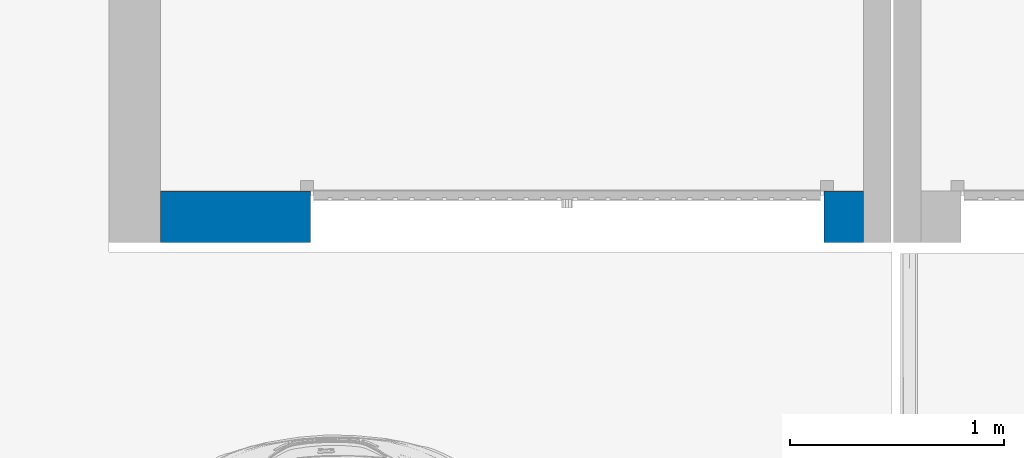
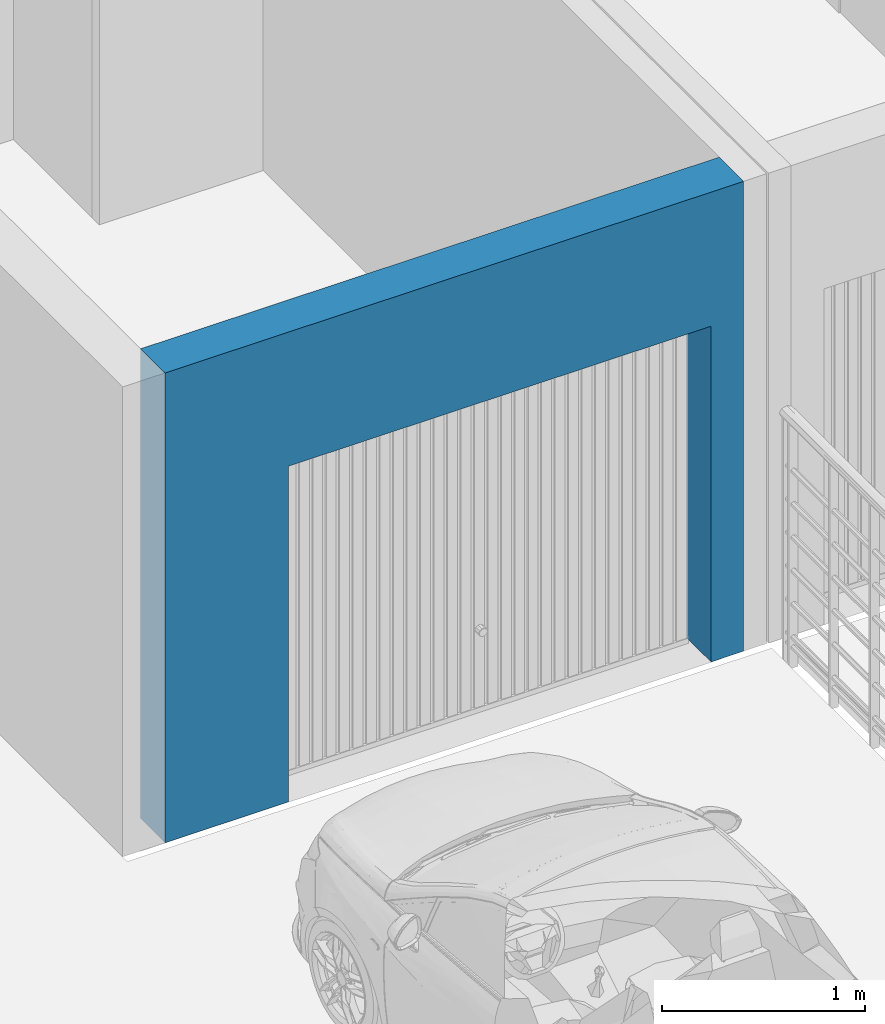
# One storey, part 2 of 33: 1 wall, 1 opening.
"""IFC2X3 building model written with IfcOpenShell, lengths in metres."""

from ifc_helpers import new_model, entity, si_unit, converted_unit, derived_unit, direction, frame, frame_2d, origin, place, context, subcontext, project, spatial, rectangle, extrude, material, layer, layer_set, layer_usage, type_object, element, save


model = new_model("IFC2X3")

# Units and contexts
model_context = context("Model", 3, precision=1e-05, world=origin(), true_north=direction((6.12303176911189e-17, 1.0)))
context_of_model = context(None, 3, precision=1e-05, world=origin(), true_north=direction((6.12303176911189e-17, 1.0)))
body_context = subcontext(model_context, "Body", "Model", "MODEL_VIEW")
ifc_project = project(units=[si_unit("LENGTHUNIT", "METRE"), si_unit("AREAUNIT", "SQUARE_METRE"), si_unit("VOLUMEUNIT", "CUBIC_METRE"), converted_unit("PLANEANGLEUNIT", "DEGREE", entity("IfcRatioMeasure", 0.0174532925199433), si_unit("PLANEANGLEUNIT", "RADIAN"), dimensions=[0, 0, 0, 0, 0, 0, 0]), si_unit("MASSUNIT", "GRAM", prefix="KILO"), si_unit("TIMEUNIT", "SECOND"), si_unit("FREQUENCYUNIT", "HERTZ"), si_unit("THERMODYNAMICTEMPERATUREUNIT", "DEGREE_CELSIUS"), derived_unit("THERMALTRANSMITTANCEUNIT", [(si_unit("MASSUNIT", "GRAM", prefix="KILO"), 1), (si_unit("THERMODYNAMICTEMPERATUREUNIT", "KELVIN"), -1), (si_unit("TIMEUNIT", "SECOND"), -3)]), derived_unit("VOLUMETRICFLOWRATEUNIT", [(si_unit("LENGTHUNIT", "METRE"), 3), (si_unit("TIMEUNIT", "SECOND"), -1)]), si_unit("ELECTRICCURRENTUNIT", "AMPERE"), si_unit("ELECTRICVOLTAGEUNIT", "VOLT"), si_unit("POWERUNIT", "WATT"), si_unit("FORCEUNIT", "NEWTON", prefix="KILO"), si_unit("ILLUMINANCEUNIT", "LUX"), si_unit("LUMINOUSFLUXUNIT", "LUMEN"), si_unit("LUMINOUSINTENSITYUNIT", "CANDELA"), si_unit("PRESSUREUNIT", "PASCAL")], contexts=[model_context, context_of_model])

# Site, building, storey
site_placement = place(None, origin())
site = spatial("IfcSite", under=ifc_project, at=site_placement, Name="Surface", CompositionType="ELEMENT")
building_placement = place(site_placement, origin())
building = spatial("IfcBuilding", under=site, at=building_placement, CompositionType="ELEMENT")
storey_placement = place(building_placement, origin())
storey = spatial("IfcBuildingStorey", under=building, at=storey_placement, Name="Plan des fondations  Maisons 1 et 2", CompositionType="ELEMENT", Elevation=0.0)

# Wall, opening
ifc_material_1 = material(Name="Enduit  gris")
ifc_layer_1 = layer(ifc_material_1, 0.02)
ifc_material_2 = material(Name="Parpaing")
ifc_layer_2 = layer(ifc_material_2, 0.2)
ifc_layer_3 = layer(ifc_material_1, 0.02)
ifc_layer_set = layer_set([ifc_layer_1, ifc_layer_2, ifc_layer_3], Name="Mur de base:Ext. Parpaing 2 + 20 + 2 gris")
ifc_layer_usage = layer_usage(ifc_layer_set, "AXIS2", "POSITIVE", -0.12)
wall_type = type_object("IfcWallType", Name="Mur de base:Ext. Parpaing 2 + 20 + 2 gris", PredefinedType="STANDARD", material=ifc_layer_set)
wall_placement = place(storey_placement, frame((68.6996263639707, 77.0077566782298, 0.0), z_axis=(0.0, 0.0, 1.0), x_axis=(-1.0, 0.0, 0.0)))
wall = element("IfcWallStandardCase", 1, at=wall_placement, inside=storey, type_object=wall_type, material=ifc_layer_usage, Name="Mur de base:Ext. Parpaing 2 + 20 + 2 gris", ObjectType="Mur de base:Ext. Parpaing 2 + 20 + 2 gris", context=body_context, shape_type="SweptSolid", body=[
    extrude(rectangle(XDim=3.28499999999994, YDim=0.239999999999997, at=frame_2d((1.64249999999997, -2.14411821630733e-15), x_axis=(-1.0, 0.0))), origin(), (0.0, 0.0, 1.0), 2.82),
])
opening_placement = place(wall_placement, frame((68.6996263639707, 77.0077566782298, 0.0), z_axis=(0.0, 0.0, 1.0), x_axis=(-1.0, 0.0, 0.0)))
element("IfcOpeningElement", 2, at=opening_placement, cuts=wall, Name="Mur de base:Ext. Parpaing 2 + 20 + 2 gris", ObjectType="Opening", context=body_context, shape_type="SweptSolid", body=[
    extrude(rectangle(XDim=2.01500000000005, YDim=2.39999999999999, at=frame_2d((0.0, 0.0), x_axis=(0.0, 1.0))), frame((67.3146263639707, 77.4277566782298, 1.00750000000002), z_axis=(0.0, -1.0, 0.0), x_axis=(-1.0, 0.0, 0.0)), (0.0, 0.0, 1.0), 0.840000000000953),
])

save(model, "model.ifc")
